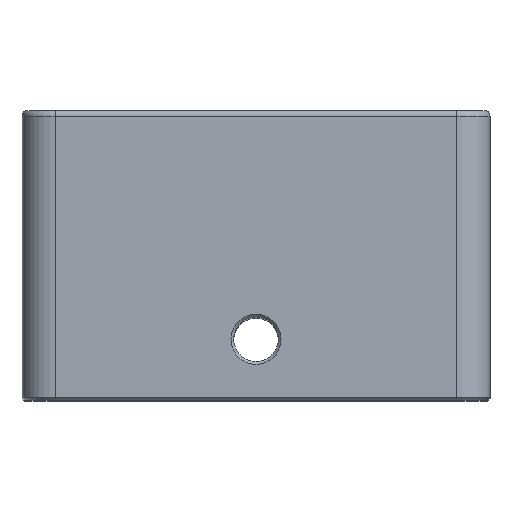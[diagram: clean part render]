
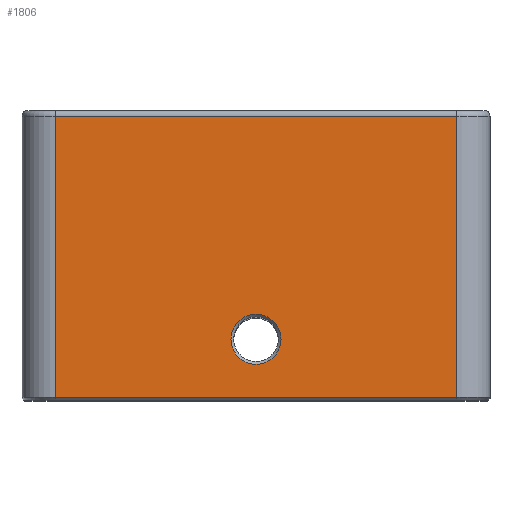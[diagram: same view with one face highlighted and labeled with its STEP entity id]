
A CAD part, top view. The second image highlights one B-rep face of the part: STEP entity #1806.
In plain terms, the highlighted planar face has unit normal (0, 0, 1).
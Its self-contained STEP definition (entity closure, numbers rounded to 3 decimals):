
#81=FACE_BOUND('',#295,.T.);
#117=PLANE('',#1978);
#165=FACE_OUTER_BOUND('',#294,.T.);
#294=EDGE_LOOP('',(#1345,#1346,#1347,#1348));
#295=EDGE_LOOP('',(#1349));
#463=CIRCLE('',#1976,2.25);
#556=LINE('',#2807,#690);
#574=LINE('',#2859,#708);
#586=LINE('',#2946,#720);
#587=LINE('',#2947,#721);
#690=VECTOR('',#2180,10.);
#708=VECTOR('',#2234,10.);
#720=VECTOR('',#2318,10.);
#721=VECTOR('',#2319,10.);
#821=VERTEX_POINT('',#2795);
#825=VERTEX_POINT('',#2805);
#841=VERTEX_POINT('',#2858);
#878=VERTEX_POINT('',#2939);
#880=VERTEX_POINT('',#2945);
#986=EDGE_CURVE('',#825,#821,#556,.T.);
#1012=EDGE_CURVE('',#821,#841,#574,.T.);
#1052=EDGE_CURVE('',#878,#878,#463,.T.);
#1055=EDGE_CURVE('',#880,#825,#586,.T.);
#1056=EDGE_CURVE('',#841,#880,#587,.T.);
#1345=ORIENTED_EDGE('',*,*,#986,.F.);
#1346=ORIENTED_EDGE('',*,*,#1055,.F.);
#1347=ORIENTED_EDGE('',*,*,#1056,.F.);
#1348=ORIENTED_EDGE('',*,*,#1012,.F.);
#1349=ORIENTED_EDGE('',*,*,#1052,.F.);
#1806=ADVANCED_FACE('',(#165,#81),#117,.T.);
#1976=AXIS2_PLACEMENT_3D('',#2940,#2311,#2312);
#1978=AXIS2_PLACEMENT_3D('',#2944,#2316,#2317);
#2180=DIRECTION('',(-1.,0.,0.));
#2234=DIRECTION('',(0.,1.,0.));
#2311=DIRECTION('center_axis',(0.,0.,1.));
#2312=DIRECTION('ref_axis',(-1.,0.,0.));
#2316=DIRECTION('center_axis',(0.,0.,1.));
#2317=DIRECTION('ref_axis',(-1.,0.,0.));
#2318=DIRECTION('',(0.,-1.,0.));
#2319=DIRECTION('',(1.,0.,0.));
#2795=CARTESIAN_POINT('',(-18.,-23.75,48.));
#2805=CARTESIAN_POINT('',(18.,-23.75,48.));
#2807=CARTESIAN_POINT('',(19.5,-23.75,48.));
#2858=CARTESIAN_POINT('',(-18.,1.5,48.));
#2859=CARTESIAN_POINT('',(-18.,0.,48.));
#2939=CARTESIAN_POINT('',(2.25,-18.528,48.));
#2940=CARTESIAN_POINT('Origin',(0.,-18.528,48.));
#2944=CARTESIAN_POINT('Origin',(21.,0.,48.));
#2945=CARTESIAN_POINT('',(18.,1.5,48.));
#2946=CARTESIAN_POINT('',(18.,0.,48.));
#2947=CARTESIAN_POINT('',(10.5,1.5,48.));
